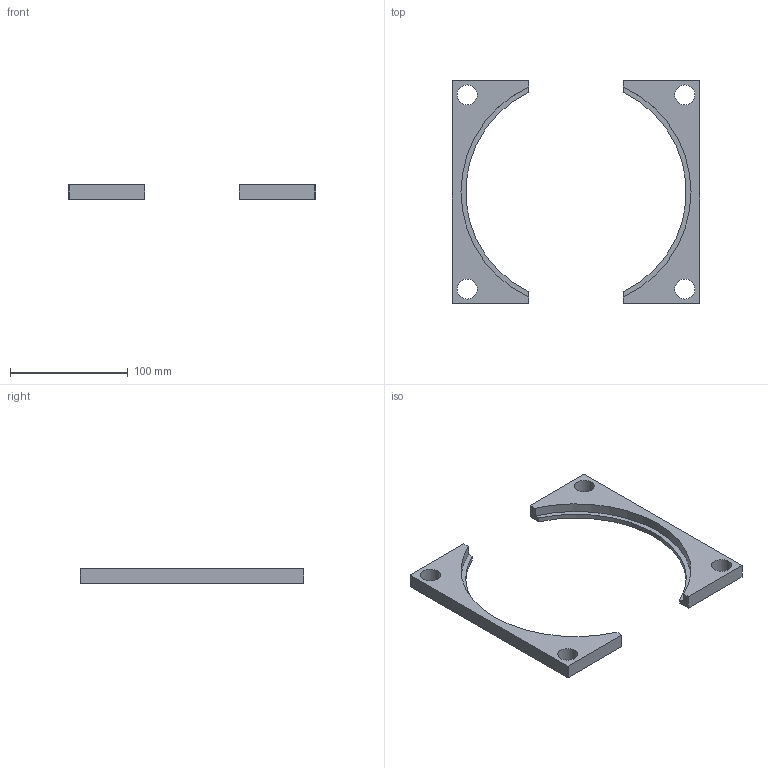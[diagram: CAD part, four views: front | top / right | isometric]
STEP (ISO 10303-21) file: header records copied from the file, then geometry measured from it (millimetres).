
FILE_DESCRIPTION(/* description */ (''),/* implementation_level */ '2;1');
FILE_NAME(/* name */ 'C:\Users\Jefferson\Desktop\Biblioteca Pro Nitro 2024\Flanges\PNB-32-XXX\PNB-32-195.stp',/* time_stamp */ '2024-01-10T17:17:13-03:00',/* author */ ('Jefferson'),/* organization */ (''),/* preprocessor_version */ 'ST-DEVELOPER v18.1',/* originating_system */ 'Autodesk Inventor 2021',/* authorisation */ '');
FILE_SCHEMA (('AUTOMOTIVE_DESIGN { 1 0 10303 214 3 1 1 }'));
Length unit declared in the file: millimetre
Products named in the file (1): PNB-32-195
Bounding box: 210 x 190 x 12 mm (x, y, z)
Volume: 114556.9 mm3; surface area: 37319.3 mm2
Topology: 2 solids, 2 shells, 196 faces, 534 edges, 356 vertices
Faces by surface type: plane 103, bspline 85, cylinder 8
Full cylindrical faces by diameter (mm): 17 x4
Entity records: 6640 total; most frequent: CARTESIAN_POINT 2192, ORIENTED_EDGE 1068, DIRECTION 604, EDGE_CURVE 534, VERTEX_POINT 356, LINE 348, VECTOR 348, EDGE_LOOP 218
